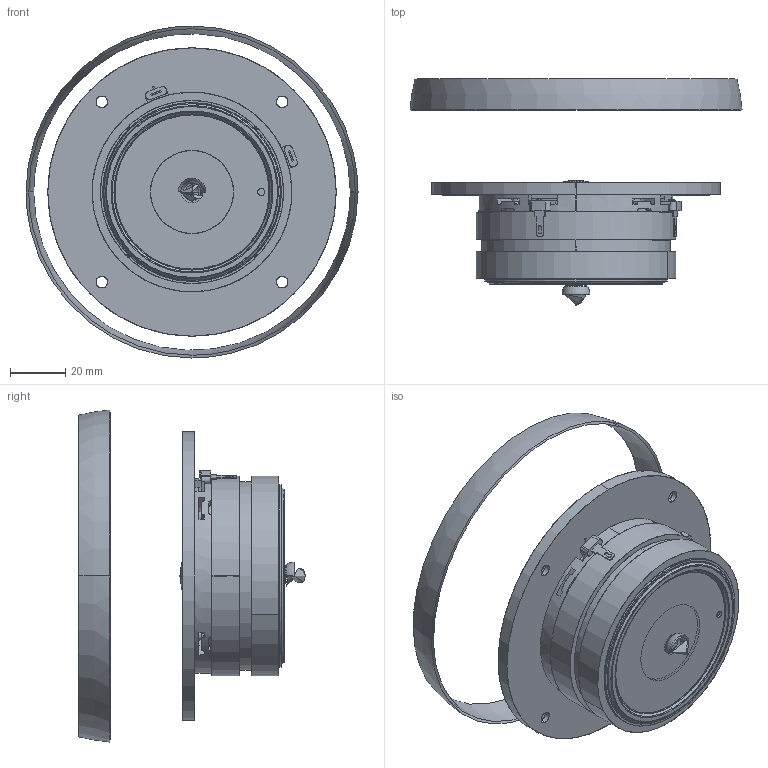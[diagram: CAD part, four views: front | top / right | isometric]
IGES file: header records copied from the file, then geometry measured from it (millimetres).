
Start section: SolidWorks IGES file using analytic representation for surfaces
Global section: file name: W:\TT\WEB 3D enheder\WEB D2608_913000\D2608-913000.IGS; native system: SolidWorks 2019; preprocessor: SolidWorks 2019; author: mhn; date: 201022.075420; units: millimetre
Bounding box: 119.75 x 81.59 x 119.75 mm (x, y, z)
Surface area: 46787.8 mm2 (no closed solid volume)
Topology: 0 solids, 0 shells, 416 faces, 6448 edges, 6445 vertices
Faces by surface type: bspline 217, revolution 199
